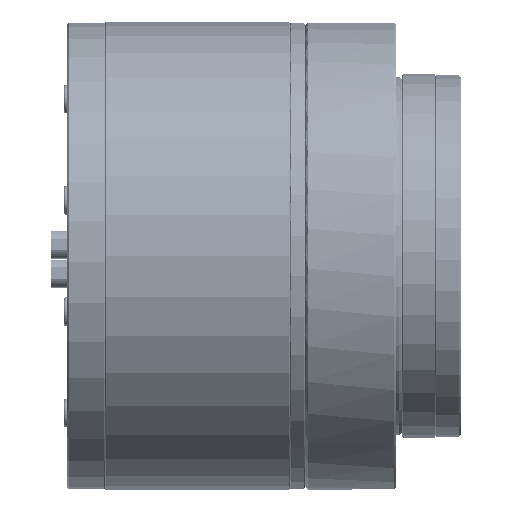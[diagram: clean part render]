
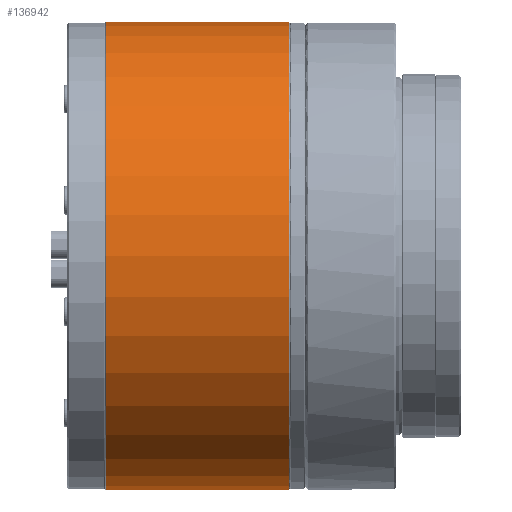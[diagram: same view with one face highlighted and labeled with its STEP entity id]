
A CAD part, front view. The second image highlights one B-rep face of the part: STEP entity #136942.
In plain terms, the highlighted cylindrical face has radius 45 mm (diameter 90 mm), a full revolution.
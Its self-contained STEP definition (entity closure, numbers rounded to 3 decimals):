
#11489 = EDGE_CURVE ( 'NONE', #24023, #24023, #36264, .T. ) ;
#21376 = DIRECTION ( 'NONE',  ( 0., 0., 1. ) ) ;
#24023 = VERTEX_POINT ( 'NONE', #63898 ) ;
#27267 = ORIENTED_EDGE ( 'NONE', *, *, #11489, .T. ) ;
#27428 = DIRECTION ( 'NONE',  ( 0., 0., 1. ) ) ;
#33488 = AXIS2_PLACEMENT_3D ( 'NONE', #184363, #129589, #27428 ) ;
#36264 = CIRCLE ( 'NONE', #181447, 45. ) ;
#58102 = EDGE_LOOP ( 'NONE', ( #27267 ) ) ;
#63898 = CARTESIAN_POINT ( 'NONE',  ( -53.9, 0., -45. ) ) ;
#70003 = FACE_OUTER_BOUND ( 'NONE', #58102, .T. ) ;
#77142 = DIRECTION ( 'NONE',  ( -1., 0., 0. ) ) ;
#77866 = CYLINDRICAL_SURFACE ( 'NONE', #151768, 45. ) ;
#84390 = EDGE_LOOP ( 'NONE', ( #187545 ) ) ;
#107721 = CARTESIAN_POINT ( 'NONE',  ( -70.402, 0., 0. ) ) ;
#108785 = CARTESIAN_POINT ( 'NONE',  ( -53.9, 0., 0. ) ) ;
#115927 = EDGE_CURVE ( 'NONE', #186164, #186164, #140140, .T. ) ;
#129589 = DIRECTION ( 'NONE',  ( -1., 0., 0. ) ) ;
#133034 = FACE_OUTER_BOUND ( 'NONE', #84390, .T. ) ;
#136942 = ADVANCED_FACE ( 'NONE', ( #70003, #133034 ), #77866, .T. ) ;
#140140 = CIRCLE ( 'NONE', #33488, 45. ) ;
#150853 = CARTESIAN_POINT ( 'NONE',  ( -18.7, 0., 45. ) ) ;
#151768 = AXIS2_PLACEMENT_3D ( 'NONE', #107721, #77142, #21376 ) ;
#171021 = DIRECTION ( 'NONE',  ( 0., 0., -1. ) ) ;
#172274 = DIRECTION ( 'NONE',  ( 1., 0., 0. ) ) ;
#181447 = AXIS2_PLACEMENT_3D ( 'NONE', #108785, #172274, #171021 ) ;
#184363 = CARTESIAN_POINT ( 'NONE',  ( -18.7, 0., 0. ) ) ;
#186164 = VERTEX_POINT ( 'NONE', #150853 ) ;
#187545 = ORIENTED_EDGE ( 'NONE', *, *, #115927, .T. ) ;
